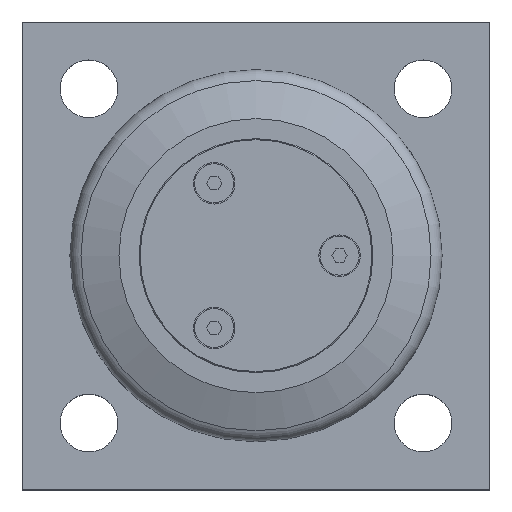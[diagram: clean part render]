
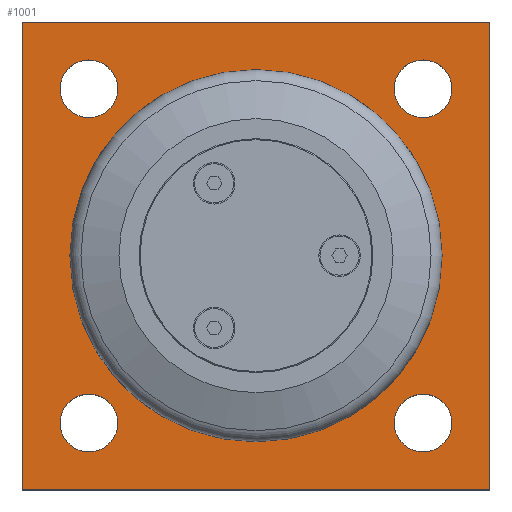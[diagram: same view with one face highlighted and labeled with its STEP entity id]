
A CAD part, top view. The second image highlights one B-rep face of the part: STEP entity #1001.
In plain terms, the highlighted planar face has unit normal (0, 0, 1).
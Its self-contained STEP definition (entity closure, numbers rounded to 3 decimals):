
#34=FACE_BOUND('',#227,.T.);
#35=FACE_BOUND('',#228,.T.);
#36=FACE_BOUND('',#229,.T.);
#37=FACE_BOUND('',#230,.T.);
#38=FACE_BOUND('',#231,.T.);
#84=CIRCLE('',#1118,35.);
#85=CIRCLE('',#1120,8.647);
#86=CIRCLE('',#1121,8.647);
#87=CIRCLE('',#1122,8.647);
#88=CIRCLE('',#1123,8.647);
#89=CIRCLE('',#1124,8.647);
#90=CIRCLE('',#1125,8.647);
#91=CIRCLE('',#1126,8.647);
#92=CIRCLE('',#1127,8.647);
#157=FACE_OUTER_BOUND('',#226,.T.);
#226=EDGE_LOOP('',(#860,#861,#862,#863));
#227=EDGE_LOOP('',(#864,#865));
#228=EDGE_LOOP('',(#866,#867));
#229=EDGE_LOOP('',(#868,#869));
#230=EDGE_LOOP('',(#870,#871));
#231=EDGE_LOOP('',(#872));
#312=LINE('',#1707,#395);
#313=LINE('',#1709,#396);
#314=LINE('',#1711,#397);
#315=LINE('',#1712,#398);
#395=VECTOR('',#1388,10.);
#396=VECTOR('',#1389,10.);
#397=VECTOR('',#1390,10.);
#398=VECTOR('',#1391,10.);
#485=VERTEX_POINT('',#1701);
#486=VERTEX_POINT('',#1705);
#487=VERTEX_POINT('',#1706);
#488=VERTEX_POINT('',#1708);
#489=VERTEX_POINT('',#1710);
#490=VERTEX_POINT('',#1713);
#491=VERTEX_POINT('',#1714);
#492=VERTEX_POINT('',#1717);
#493=VERTEX_POINT('',#1718);
#494=VERTEX_POINT('',#1721);
#495=VERTEX_POINT('',#1722);
#496=VERTEX_POINT('',#1725);
#497=VERTEX_POINT('',#1726);
#614=EDGE_CURVE('',#485,#485,#84,.T.);
#615=EDGE_CURVE('',#486,#487,#312,.T.);
#616=EDGE_CURVE('',#488,#486,#313,.T.);
#617=EDGE_CURVE('',#489,#488,#314,.T.);
#618=EDGE_CURVE('',#487,#489,#315,.T.);
#619=EDGE_CURVE('',#490,#491,#85,.T.);
#620=EDGE_CURVE('',#491,#490,#86,.T.);
#621=EDGE_CURVE('',#492,#493,#87,.T.);
#622=EDGE_CURVE('',#493,#492,#88,.T.);
#623=EDGE_CURVE('',#494,#495,#89,.T.);
#624=EDGE_CURVE('',#495,#494,#90,.T.);
#625=EDGE_CURVE('',#496,#497,#91,.T.);
#626=EDGE_CURVE('',#497,#496,#92,.T.);
#860=ORIENTED_EDGE('',*,*,#615,.F.);
#861=ORIENTED_EDGE('',*,*,#616,.F.);
#862=ORIENTED_EDGE('',*,*,#617,.F.);
#863=ORIENTED_EDGE('',*,*,#618,.F.);
#864=ORIENTED_EDGE('',*,*,#619,.T.);
#865=ORIENTED_EDGE('',*,*,#620,.T.);
#866=ORIENTED_EDGE('',*,*,#621,.T.);
#867=ORIENTED_EDGE('',*,*,#622,.T.);
#868=ORIENTED_EDGE('',*,*,#623,.T.);
#869=ORIENTED_EDGE('',*,*,#624,.T.);
#870=ORIENTED_EDGE('',*,*,#625,.T.);
#871=ORIENTED_EDGE('',*,*,#626,.T.);
#872=ORIENTED_EDGE('',*,*,#614,.T.);
#948=PLANE('',#1119);
#1001=ADVANCED_FACE('',(#157,#34,#35,#36,#37,#38),#948,.T.);
#1118=AXIS2_PLACEMENT_3D('',#1703,#1384,#1385);
#1119=AXIS2_PLACEMENT_3D('',#1704,#1386,#1387);
#1120=AXIS2_PLACEMENT_3D('',#1715,#1392,#1393);
#1121=AXIS2_PLACEMENT_3D('',#1716,#1394,#1395);
#1122=AXIS2_PLACEMENT_3D('',#1719,#1396,#1397);
#1123=AXIS2_PLACEMENT_3D('',#1720,#1398,#1399);
#1124=AXIS2_PLACEMENT_3D('',#1723,#1400,#1401);
#1125=AXIS2_PLACEMENT_3D('',#1724,#1402,#1403);
#1126=AXIS2_PLACEMENT_3D('',#1727,#1404,#1405);
#1127=AXIS2_PLACEMENT_3D('',#1728,#1406,#1407);
#1384=DIRECTION('center_axis',(0.,0.,-1.));
#1385=DIRECTION('ref_axis',(0.,-1.,0.));
#1386=DIRECTION('center_axis',(0.,0.,1.));
#1387=DIRECTION('ref_axis',(1.,0.,0.));
#1388=DIRECTION('',(0.,1.,0.));
#1389=DIRECTION('',(-1.,0.,0.));
#1390=DIRECTION('',(0.,-1.,0.));
#1391=DIRECTION('',(1.,0.,0.));
#1392=DIRECTION('center_axis',(0.,0.,-1.));
#1393=DIRECTION('ref_axis',(1.,0.,0.));
#1394=DIRECTION('center_axis',(0.,0.,-1.));
#1395=DIRECTION('ref_axis',(1.,0.,0.));
#1396=DIRECTION('center_axis',(0.,0.,-1.));
#1397=DIRECTION('ref_axis',(1.,0.,0.));
#1398=DIRECTION('center_axis',(0.,0.,-1.));
#1399=DIRECTION('ref_axis',(1.,0.,0.));
#1400=DIRECTION('center_axis',(0.,0.,-1.));
#1401=DIRECTION('ref_axis',(1.,0.,0.));
#1402=DIRECTION('center_axis',(0.,0.,-1.));
#1403=DIRECTION('ref_axis',(1.,0.,0.));
#1404=DIRECTION('center_axis',(0.,0.,-1.));
#1405=DIRECTION('ref_axis',(1.,0.,0.));
#1406=DIRECTION('center_axis',(0.,0.,-1.));
#1407=DIRECTION('ref_axis',(1.,0.,0.));
#1701=CARTESIAN_POINT('',(70.,105.,20.));
#1703=CARTESIAN_POINT('Origin',(70.,70.,20.));
#1704=CARTESIAN_POINT('Origin',(70.,70.,20.));
#1705=CARTESIAN_POINT('',(0.,0.,20.));
#1706=CARTESIAN_POINT('',(0.,140.,20.));
#1707=CARTESIAN_POINT('',(0.,140.,20.));
#1708=CARTESIAN_POINT('',(140.,0.,20.));
#1709=CARTESIAN_POINT('',(0.,0.,20.));
#1710=CARTESIAN_POINT('',(140.,140.,20.));
#1711=CARTESIAN_POINT('',(140.,0.,20.));
#1712=CARTESIAN_POINT('',(140.,140.,20.));
#1713=CARTESIAN_POINT('',(28.647,20.,20.));
#1714=CARTESIAN_POINT('',(11.353,20.,20.));
#1715=CARTESIAN_POINT('Origin',(20.,20.,20.));
#1716=CARTESIAN_POINT('Origin',(20.,20.,20.));
#1717=CARTESIAN_POINT('',(128.647,20.,20.));
#1718=CARTESIAN_POINT('',(111.353,20.,20.));
#1719=CARTESIAN_POINT('Origin',(120.,20.,20.));
#1720=CARTESIAN_POINT('Origin',(120.,20.,20.));
#1721=CARTESIAN_POINT('',(128.647,120.,20.));
#1722=CARTESIAN_POINT('',(111.353,120.,20.));
#1723=CARTESIAN_POINT('Origin',(120.,120.,20.));
#1724=CARTESIAN_POINT('Origin',(120.,120.,20.));
#1725=CARTESIAN_POINT('',(28.647,120.,20.));
#1726=CARTESIAN_POINT('',(11.353,120.,20.));
#1727=CARTESIAN_POINT('Origin',(20.,120.,20.));
#1728=CARTESIAN_POINT('Origin',(20.,120.,20.));
